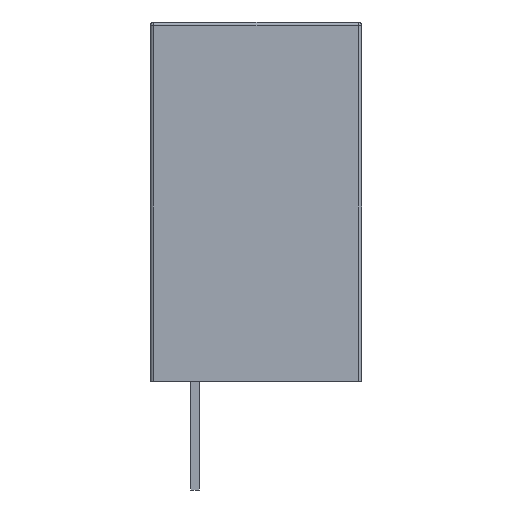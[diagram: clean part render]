
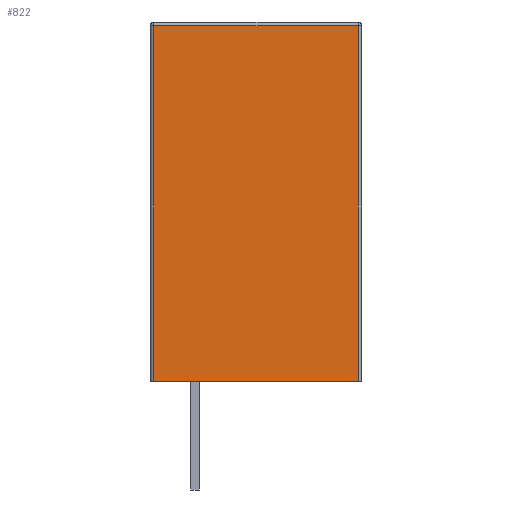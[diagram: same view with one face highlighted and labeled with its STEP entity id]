
A CAD part, left-side view. The second image highlights one B-rep face of the part: STEP entity #822.
In plain terms, the highlighted planar face has unit normal (-1, 0, 0).
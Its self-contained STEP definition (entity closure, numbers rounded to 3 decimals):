
#822=ADVANCED_FACE('',(#1774),#1775,.F.);
#1774=FACE_OUTER_BOUND('',#2976,.T.);
#1775=PLANE('',#2977);
#2976=EDGE_LOOP('',(#8946,#8947,#8948,#8949));
#2977=AXIS2_PLACEMENT_3D('',#8950,#8951,#8952);
#8946=ORIENTED_EDGE('',*,*,#11027,.T.);
#8947=ORIENTED_EDGE('',*,*,#11028,.T.);
#8948=ORIENTED_EDGE('',*,*,#11003,.T.);
#8949=ORIENTED_EDGE('',*,*,#10651,.T.);
#8950=CARTESIAN_POINT('',(-9.8,3.0,4.845));
#8951=DIRECTION('',(1.0,0.0,0.0));
#8952=DIRECTION('',(0.0,1.0,0.0));
#10651=EDGE_CURVE('',#12329,#12327,#12330,.F.);
#11003=EDGE_CURVE('',#12835,#12329,#12836,.T.);
#11027=EDGE_CURVE('',#12327,#12872,#12873,.F.);
#11028=EDGE_CURVE('',#12872,#12835,#12874,.T.);
#12327=VERTEX_POINT('',#21083);
#12329=VERTEX_POINT('',#21085);
#12330=LINE('',#21086,#21087);
#12835=VERTEX_POINT('',#22850);
#12836=LINE('',#22851,#22852);
#12872=VERTEX_POINT('',#22902);
#12873=LINE('',#22903,#22904);
#12874=LINE('',#22905,#22906);
#21083=CARTESIAN_POINT('',(-9.8,-2.9,4.745));
#21085=CARTESIAN_POINT('',(-9.8,-2.9,-5.355));
#21086=CARTESIAN_POINT('',(-9.8,-2.9,4.845));
#21087=VECTOR('',#23426,1000.0);
#22850=CARTESIAN_POINT('',(-9.8,2.9,-5.355));
#22851=CARTESIAN_POINT('',(-9.8,3.0,-5.355));
#22852=VECTOR('',#23538,1000.0);
#22902=CARTESIAN_POINT('',(-9.8,2.9,4.745));
#22903=CARTESIAN_POINT('',(-9.8,3.0,4.745));
#22904=VECTOR('',#23562,1000.0);
#22905=CARTESIAN_POINT('',(-9.8,2.9,4.845));
#22906=VECTOR('',#23563,1000.0);
#23426=DIRECTION('',(0.0,0.0,-1.0));
#23538=DIRECTION('',(0.,-1.0,0.0));
#23562=DIRECTION('',(0.0,-1.0,0.0));
#23563=DIRECTION('',(0.0,0.0,-1.0));
